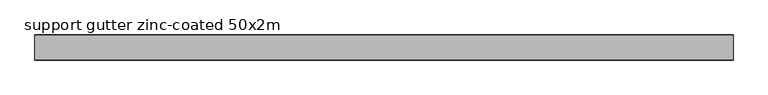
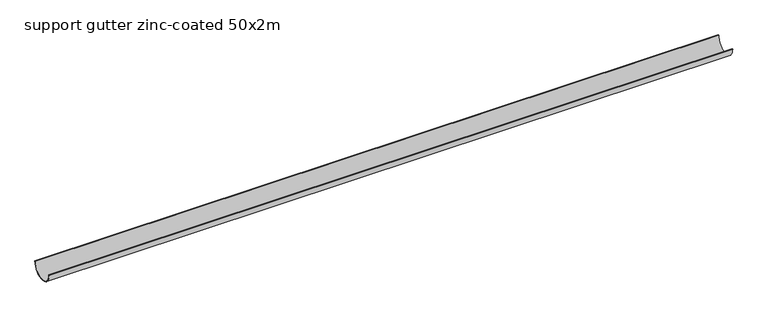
"""IFC4 building model written with IfcOpenShell, lengths in millimetres: valve geometry, PP-R_Support gutter zinc-coated : support gutter zinc-coated 50x2m."""

from ifc_helpers import new_model, si_unit, point, frame, frame_2d, origin, place, context, project, spatial, polyline, circle_curve, trimmed, segment, composite_curve, outline, extrude, source, transform, mapped, element, save


def support_gutter_zinc_coated_50x2m_4549794e(model_context):
    return source(origin(), model_context, "Body", "SweptSolid", [
        extrude(outline(composite_curve([segment(trimmed(circle_curve(frame_2d((0.0, -26.0)), 26.0), [point((-26.0, -26.0))], [point((26.0, -26.0))], True, "CARTESIAN"), True, "CONTINUOUS"), segment(polyline([(26.0, -26.0), (27.0, -26.0)]), True, "CONTINUOUS"), segment(trimmed(circle_curve(frame_2d((0.0, -26.0)), 27.0), [point((27.0, -26.0))], [point((-27.0, -26.0))], False, "CARTESIAN"), True, "CONTINUOUS"), segment(polyline([(-27.0, -26.0), (-26.0, -26.0)]), True, "CONTINUOUS")], self_intersect=False)), frame((9.5156627, 0.0, 0.0), z_axis=(1.0, 0.0, 0.0), x_axis=(0.0, 1.0, 0.0)), (0.0, 0.0, 1.0), 1500.0),
    ])


if __name__ == "__main__":
    model = new_model("IFC4")
    model_context = context("Model", 3, world=origin())
    ifc_project = project(units=[si_unit("LENGTHUNIT", "METRE", prefix="MILLI")], contexts=[model_context])
    site = spatial("IfcSite", under=ifc_project)
    building = spatial("IfcBuilding", under=site)
    placement = place(None, origin())
    support_gutter_zinc_coated_50x2m_shape = support_gutter_zinc_coated_50x2m_4549794e(model_context)
    element("IfcValve", 1, ObjectType="PP-R_Support gutter zinc-coated : support gutter zinc-coated 50x2m", at=placement, inside=building, context=model_context, shape_type="MappedRepresentation", body=[
        mapped(support_gutter_zinc_coated_50x2m_shape, transform((0.0, 0.0, 0.0), x_axis=(1.0, 0.0, 0.0), y_axis=(0.0, 1.0, 0.0), z_axis=(0.0, 0.0, 1.0))),
    ])
    save(model, "model.ifc")
